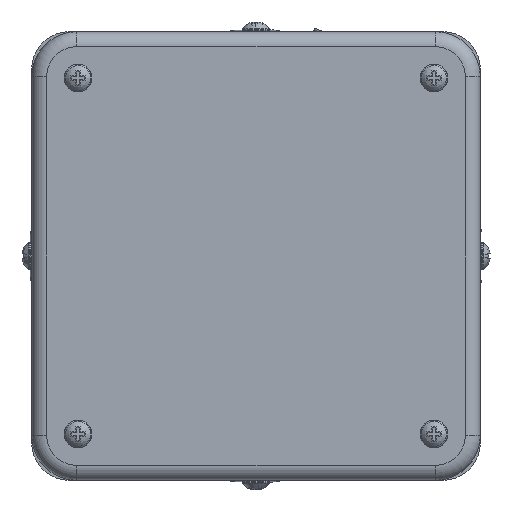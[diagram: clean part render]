
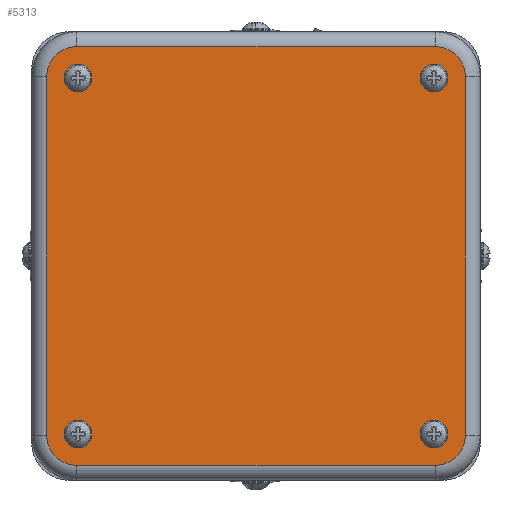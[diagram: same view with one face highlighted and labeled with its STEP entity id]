
A CAD part, left-side view. The second image highlights one B-rep face of the part: STEP entity #5313.
In plain terms, the highlighted planar face has unit normal (-1, 0, 0).
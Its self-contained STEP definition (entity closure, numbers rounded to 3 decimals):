
#1577=CARTESIAN_POINT('',(-123.672,-31.097,-23.376));
#1578=VERTEX_POINT('',#1577);
#1579=CARTESIAN_POINT('',(-123.672,-33.897,-23.376));
#1580=DIRECTION('',(1.0,0.0,0.0));
#1581=DIRECTION('',(0.0,-1.0,0.0));
#1582=AXIS2_PLACEMENT_3D('',#1579,#1580,#1581);
#1583=CIRCLE('',#1582,2.8);
#1584=EDGE_CURVE('',#1578,#1578,#1583,.T.);
#2186=CARTESIAN_POINT('',(-123.672,40.32,-23.376));
#2187=VERTEX_POINT('',#2186);
#2188=CARTESIAN_POINT('',(-123.672,37.52,-23.376));
#2189=DIRECTION('',(1.0,0.0,0.0));
#2190=DIRECTION('',(0.0,-1.0,0.0));
#2191=AXIS2_PLACEMENT_3D('',#2188,#2189,#2190);
#2192=CIRCLE('',#2191,2.8);
#2193=EDGE_CURVE('',#2187,#2187,#2192,.T.);
#5210=CARTESIAN_POINT('',(-123.672,8.839,5.306));
#5211=DIRECTION('',(1.0,0.0,0.0));
#5212=DIRECTION('',(0.0,1.0,0.0));
#5213=AXIS2_PLACEMENT_3D('',#5210,#5211,#5212);
#5214=PLANE('',#5213);
#5215=CARTESIAN_POINT('',(-123.672,37.811,-29.667));
#5216=VERTEX_POINT('',#5215);
#5217=CARTESIAN_POINT('',(-123.672,43.811,-23.667));
#5218=VERTEX_POINT('',#5217);
#5219=CARTESIAN_POINT('',(-123.672,37.811,-23.667));
#5220=DIRECTION('',(1.,0.,0.));
#5221=DIRECTION('',(0.,0.707,-0.707));
#5222=AXIS2_PLACEMENT_3D('',#5219,#5220,#5221);
#5223=CIRCLE('',#5222,6.);
#5224=EDGE_CURVE('',#5216,#5218,#5223,.T.);
#5225=ORIENTED_EDGE('',*,*,#5224,.F.);
#5226=CARTESIAN_POINT('',(-123.672,-34.189,-29.667));
#5227=VERTEX_POINT('',#5226);
#5228=CARTESIAN_POINT('',(-123.672,-34.189,-29.667));
#5229=DIRECTION('',(0.0,1.0,0.0));
#5230=VECTOR('',#5229,72.0);
#5231=LINE('',#5228,#5230);
#5232=EDGE_CURVE('',#5227,#5216,#5231,.T.);
#5233=ORIENTED_EDGE('',*,*,#5232,.F.);
#5234=CARTESIAN_POINT('',(-123.672,-40.189,-23.667));
#5235=VERTEX_POINT('',#5234);
#5236=CARTESIAN_POINT('',(-123.672,-34.189,-23.667));
#5237=DIRECTION('',(1.,0.,0.));
#5238=DIRECTION('',(0.,-0.707,-0.707));
#5239=AXIS2_PLACEMENT_3D('',#5236,#5237,#5238);
#5240=CIRCLE('',#5239,6.);
#5241=EDGE_CURVE('',#5235,#5227,#5240,.T.);
#5242=ORIENTED_EDGE('',*,*,#5241,.F.);
#5243=CARTESIAN_POINT('',(-123.672,-40.189,48.333));
#5244=VERTEX_POINT('',#5243);
#5245=CARTESIAN_POINT('',(-123.672,-40.189,48.333));
#5246=DIRECTION('',(0.0,0.0,-1.0));
#5247=VECTOR('',#5246,72.0);
#5248=LINE('',#5245,#5247);
#5249=EDGE_CURVE('',#5244,#5235,#5248,.T.);
#5250=ORIENTED_EDGE('',*,*,#5249,.F.);
#5251=CARTESIAN_POINT('',(-123.672,-34.189,54.333));
#5252=VERTEX_POINT('',#5251);
#5253=CARTESIAN_POINT('',(-123.672,-34.189,48.333));
#5254=DIRECTION('',(1.,0.,0.));
#5255=DIRECTION('',(0.,-0.707,0.707));
#5256=AXIS2_PLACEMENT_3D('',#5253,#5254,#5255);
#5257=CIRCLE('',#5256,6.);
#5258=EDGE_CURVE('',#5252,#5244,#5257,.T.);
#5259=ORIENTED_EDGE('',*,*,#5258,.F.);
#5260=CARTESIAN_POINT('',(-123.672,37.811,54.333));
#5261=VERTEX_POINT('',#5260);
#5262=CARTESIAN_POINT('',(-123.672,37.811,54.333));
#5263=DIRECTION('',(0.0,-1.0,0.0));
#5264=VECTOR('',#5263,72.);
#5265=LINE('',#5262,#5264);
#5266=EDGE_CURVE('',#5261,#5252,#5265,.T.);
#5267=ORIENTED_EDGE('',*,*,#5266,.F.);
#5268=CARTESIAN_POINT('',(-123.672,43.811,48.333));
#5269=VERTEX_POINT('',#5268);
#5270=CARTESIAN_POINT('',(-123.672,37.811,48.333));
#5271=DIRECTION('',(1.,0.,0.));
#5272=DIRECTION('',(0.,0.707,0.707));
#5273=AXIS2_PLACEMENT_3D('',#5270,#5271,#5272);
#5274=CIRCLE('',#5273,6.);
#5275=EDGE_CURVE('',#5269,#5261,#5274,.T.);
#5276=ORIENTED_EDGE('',*,*,#5275,.F.);
#5277=CARTESIAN_POINT('',(-123.672,43.811,-23.667));
#5278=DIRECTION('',(0.0,0.0,1.0));
#5279=VECTOR('',#5278,72.0);
#5280=LINE('',#5277,#5279);
#5281=EDGE_CURVE('',#5218,#5269,#5280,.T.);
#5282=ORIENTED_EDGE('',*,*,#5281,.F.);
#5283=EDGE_LOOP('',(#5225,#5233,#5242,#5250,#5259,#5267,#5276,#5282));
#5284=FACE_OUTER_BOUND('',#5283,.T.);
#5285=CARTESIAN_POINT('',(-123.672,-31.097,48.042));
#5286=VERTEX_POINT('',#5285);
#5287=CARTESIAN_POINT('',(-123.672,-33.897,48.042));
#5288=DIRECTION('',(1.0,0.0,0.0));
#5289=DIRECTION('',(0.0,-1.0,0.0));
#5290=AXIS2_PLACEMENT_3D('',#5287,#5288,#5289);
#5291=CIRCLE('',#5290,2.8);
#5292=EDGE_CURVE('',#5286,#5286,#5291,.T.);
#5293=ORIENTED_EDGE('',*,*,#5292,.T.);
#5294=EDGE_LOOP('',(#5293));
#5295=FACE_BOUND('',#5294,.T.);
#5296=ORIENTED_EDGE('',*,*,#1584,.T.);
#5297=EDGE_LOOP('',(#5296));
#5298=FACE_BOUND('',#5297,.T.);
#5299=CARTESIAN_POINT('',(-123.672,40.32,48.042));
#5300=VERTEX_POINT('',#5299);
#5301=CARTESIAN_POINT('',(-123.672,37.52,48.042));
#5302=DIRECTION('',(1.0,0.0,0.0));
#5303=DIRECTION('',(0.0,-1.0,0.0));
#5304=AXIS2_PLACEMENT_3D('',#5301,#5302,#5303);
#5305=CIRCLE('',#5304,2.8);
#5306=EDGE_CURVE('',#5300,#5300,#5305,.T.);
#5307=ORIENTED_EDGE('',*,*,#5306,.T.);
#5308=EDGE_LOOP('',(#5307));
#5309=FACE_BOUND('',#5308,.T.);
#5310=ORIENTED_EDGE('',*,*,#2193,.T.);
#5311=EDGE_LOOP('',(#5310));
#5312=FACE_BOUND('',#5311,.T.);
#5313=ADVANCED_FACE('',(#5284,#5295,#5298,#5309,#5312),#5214,.F.);
